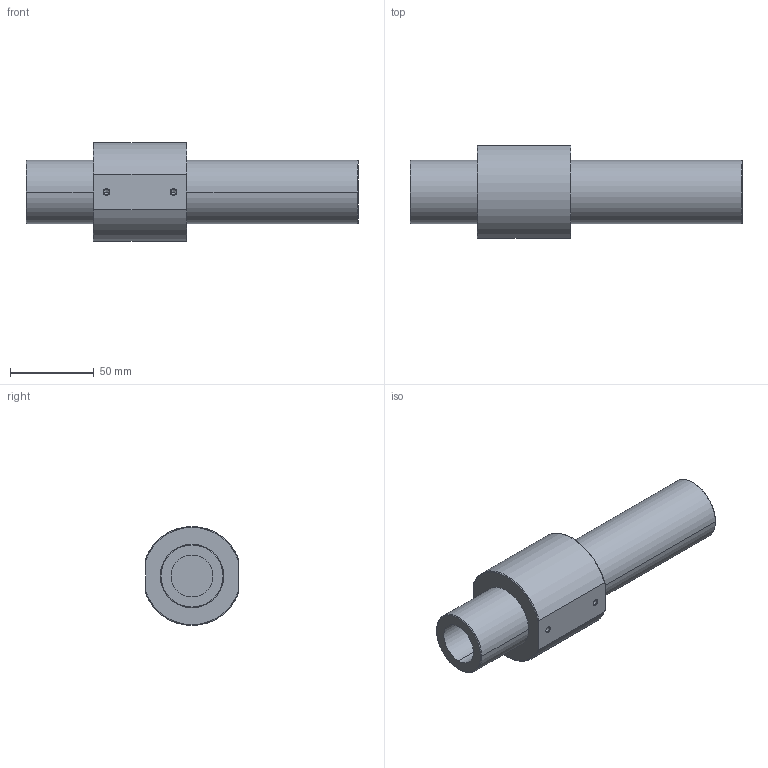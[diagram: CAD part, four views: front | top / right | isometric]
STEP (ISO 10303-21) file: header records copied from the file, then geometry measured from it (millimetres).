
FILE_DESCRIPTION (( 'STEP AP214' ), '1' );
FILE_NAME ('MT106-N.STEP', '2025-04-23T19:54:20', ( '' ), ( '' ), 'SwSTEP 2.0', 'SolidWorks 2018', '' );
FILE_SCHEMA (( 'AUTOMOTIVE_DESIGN' ));
Length unit declared in the file: millimetre
Products named in the file (1): MT106-N
Bounding box: 198 x 55 x 59 mm (x, y, z)
Volume: 268447.3 mm3; surface area: 39617.5 mm2
Topology: 1 solids, 1 shells, 57 faces, 130 edges, 80 vertices
Faces by surface type: cylinder 20, cone 14, torus 12, plane 11
Entity records: 1820 total; most frequent: CARTESIAN_POINT 464, DIRECTION 312, ORIENTED_EDGE 252, AXIS2_PLACEMENT_3D 136, EDGE_CURVE 126, VERTEX_POINT 80, CIRCLE 78, EDGE_LOOP 66
